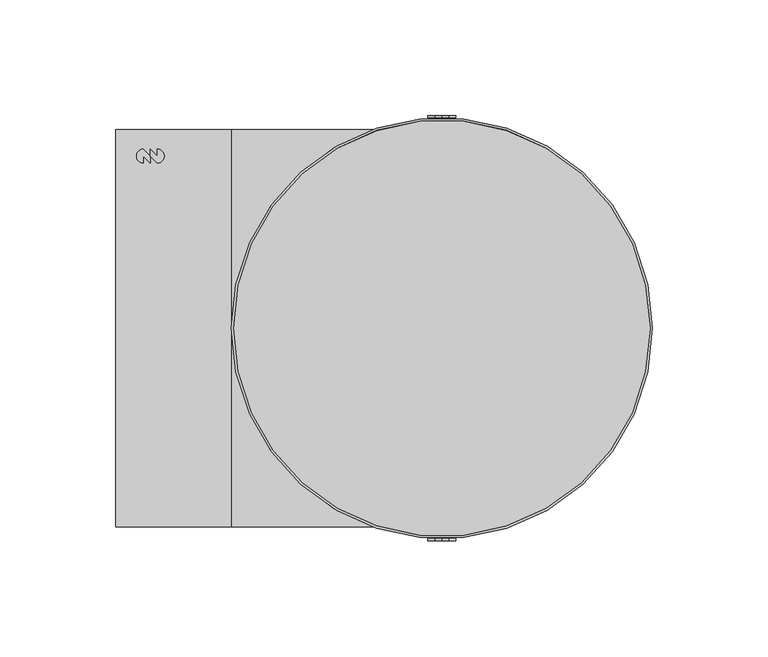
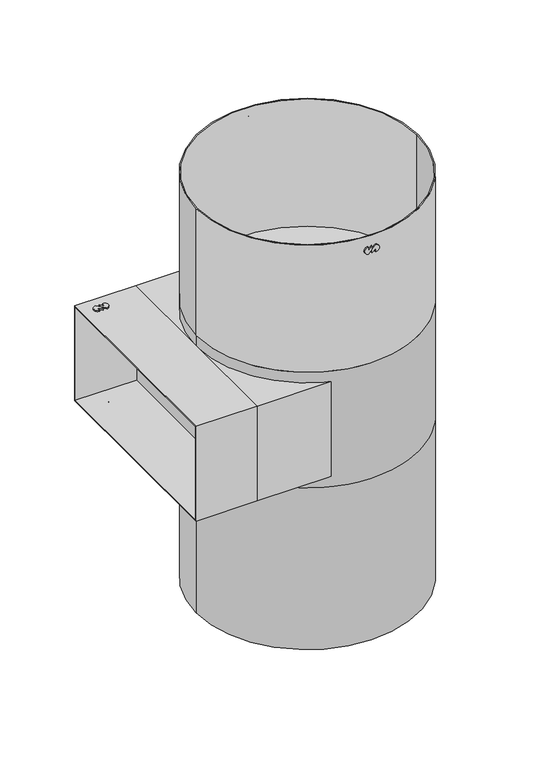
"""IFC4 building model written with IfcOpenShell, lengths in millimetres: duct fitting geometry, NLRS_57_DUF_UN_instortkanaal-instortbus_LT_velu : VIK IB."""

from ifc_helpers import new_model, si_unit, point, frame, frame_2d, origin, place, context, project, spatial, polyline, circle_curve, trimmed, segment, composite_curve, outline, extrude, source, transform, mapped, element, save
from ifc_brep_helpers import plane_surface, cylinder_surface, revolved_surface, advanced_brep


def duct_fitting_78203509(model_context):
    return source(origin(), model_context, "Body", "SolidModel", [
        extrude(outline(composite_curve([segment(trimmed(circle_curve(frame_2d((-123.0, 74.5)), 3.0), [point((-123.0, 77.5))], [point((-123.0, 71.5))], False, "CARTESIAN"), True, "CONTINUOUS"), segment(polyline([(-123.0, 71.5), (-126.0, 74.5), (-126.0, 77.5), (-123.0, 74.5), (-123.0, 77.5)]), True, "CONTINUOUS")], self_intersect=False)), frame((0.0, 0.0, -42.0), z_axis=(0.0, 0.0, 1.0), x_axis=(1.0, 0.0, 0.0)), (0.0, 0.0, 1.0), 1.0),
        extrude(outline(composite_curve([segment(trimmed(circle_curve(frame_2d((-129.0, 74.5)), 3.0), [point((-129.0, 71.5))], [point((-129.0, 77.5))], False, "CARTESIAN"), True, "CONTINUOUS"), segment(polyline([(-129.0, 77.5), (-126.0, 74.5), (-126.0, 71.5), (-129.0, 74.5), (-129.0, 71.5)]), True, "CONTINUOUS")], self_intersect=False)), frame((0.0, 0.0, -42.0), z_axis=(0.0, 0.0, 1.0), x_axis=(1.0, 0.0, 0.0)), (0.0, 0.0, 1.0), 1.0),
        extrude(outline(composite_curve([segment(trimmed(circle_curve(frame_2d((-123.0, 74.5)), 3.0), [point((-123.0, 77.5))], [point((-123.0, 71.5))], False, "CARTESIAN"), True, "CONTINUOUS"), segment(polyline([(-123.0, 71.5), (-126.0, 74.5), (-126.0, 77.5), (-123.0, 74.5), (-123.0, 77.5)]), True, "CONTINUOUS")], self_intersect=False)), frame((0.0, 0.0, 41.0), z_axis=(0.0, 0.0, 1.0), x_axis=(1.0, 0.0, 0.0)), (0.0, 0.0, 1.0), 1.0),
        extrude(outline(composite_curve([segment(trimmed(circle_curve(frame_2d((-129.0, 74.5)), 3.0), [point((-129.0, 71.5))], [point((-129.0, 77.5))], False, "CARTESIAN"), True, "CONTINUOUS"), segment(polyline([(-129.0, 77.5), (-126.0, 74.5), (-126.0, 71.5), (-129.0, 74.5), (-129.0, 71.5)]), True, "CONTINUOUS")], self_intersect=False)), frame((0.0, 0.0, 41.0), z_axis=(0.0, 0.0, 1.0), x_axis=(1.0, 0.0, 0.0)), (0.0, 0.0, 1.0), 1.0),
        extrude(outline(composite_curve([segment(trimmed(circle_curve(frame_2d((148.5, -3.0)), 3.0), [point((151.5, -3.0))], [point((145.5, -3.0))], False, "CARTESIAN"), True, "CONTINUOUS"), segment(polyline([(145.5, -3.0), (148.5, 0.0), (151.5, 0.0), (148.5, -3.0), (151.5, -3.0)]), True, "CONTINUOUS")], self_intersect=False)), frame((0.0, -92.0, 0.0), z_axis=(0.0, 1.0, 0.0), x_axis=(0.0, 0.0, 1.0)), (0.0, 0.0, 1.0), 1.0),
        extrude(outline(composite_curve([segment(trimmed(circle_curve(frame_2d((148.5, 3.0)), 3.0), [point((145.5, 3.0))], [point((151.5, 3.0))], False, "CARTESIAN"), True, "CONTINUOUS"), segment(polyline([(151.5, 3.0), (148.5, 0.0), (145.5, 0.0), (148.5, 3.0), (145.5, 3.0)]), True, "CONTINUOUS")], self_intersect=False)), frame((0.0, -92.0, 0.0), z_axis=(0.0, 1.0, 0.0), x_axis=(0.0, 0.0, 1.0)), (0.0, 0.0, 1.0), 1.0),
        extrude(outline(composite_curve([segment(trimmed(circle_curve(frame_2d((148.5, -3.0)), 3.0), [point((151.5, -3.0))], [point((145.5, -3.0))], False, "CARTESIAN"), True, "CONTINUOUS"), segment(polyline([(145.5, -3.0), (148.5, 0.0), (151.5, 0.0), (148.5, -3.0), (151.5, -3.0)]), True, "CONTINUOUS")], self_intersect=False)), frame((0.0, 91.0, 0.0), z_axis=(0.0, 1.0, 0.0), x_axis=(0.0, 0.0, 1.0)), (0.0, 0.0, 1.0), 1.0),
        extrude(outline(composite_curve([segment(trimmed(circle_curve(frame_2d((148.5, 3.0)), 3.0), [point((145.5, 3.0))], [point((151.5, 3.0))], False, "CARTESIAN"), True, "CONTINUOUS"), segment(polyline([(151.5, 3.0), (148.5, 0.0), (145.5, 0.0), (148.5, 3.0), (145.5, 3.0)]), True, "CONTINUOUS")], self_intersect=False)), frame((0.0, 91.0, 0.0), z_axis=(0.0, 1.0, 0.0), x_axis=(0.0, 0.0, 1.0)), (0.0, 0.0, 1.0), 1.0),
        extrude(outline(polyline([(-86.0, 41.0), (86.0, 41.0), (86.0, -41.0), (-86.0, -41.0), (-86.0, 41.0)]), holes=[polyline([(-85.0, -40.0), (85.0, -40.0), (85.0, 40.0), (-85.0, 40.0), (-85.0, -40.0)])]), frame((-141.0, 0.0, 0.0), z_axis=(1.0, 0.0, 0.0), x_axis=(0.0, 1.0, 0.0)), (0.0, 0.0, 1.0), 50.0),
        advanced_brep(
        [(-90.0, 0.0, 50.0), (90.0, 0.0, 50.0), (-90.0, 0.0, -50.0), (90.0, 0.0, -50.0), (91.0, 0.0, 50.0), (91.0, 0.0, -50.0), (-91.0, 0.0, -50.0), (-91.0, 0.0, -41.0), (-29.7489496, 86.0, -41.0), (-29.7489496, 86.0, 41.0), (-91.0, 0.0, 41.0), (-91.0, 0.0, 50.0), (-29.7489496, -86.0, 41.0), (-29.7489496, -86.0, -41.0), (-91.0, 86.0, 41.0), (-91.0, -86.0, 41.0), (-91.0, -86.0, -41.0), (-91.0, 86.0, -41.0), (91.0, 0.0, 160.0), (-91.0, 0.0, 160.0), (-90.0, 0.0, 160.0), (90.0, 0.0, 160.0), (91.0, 0.0, -190.0), (-91.0, 0.0, -190.0), (-90.0, 0.0, -190.0), (90.0, 0.0, -190.0)],
        [
            (0, 1, circle_curve(frame((0.0, 0.0, 50.0), z_axis=(0.0, 0.0, 1.0), x_axis=(1.0, 0.0, 0.0)), 90.0)),
            (1, 0, circle_curve(frame((0.0, 0.0, 50.0), z_axis=(0.0, 0.0, 1.0), x_axis=(-1.0, 0.0, 0.0)), 90.0)),
            (2, 3, circle_curve(frame((0.0, 0.0, -50.0), z_axis=(0.0, 0.0, -1.0), x_axis=(1.0, 0.0, 0.0)), 90.0)),
            (3, 2, circle_curve(frame((0.0, 0.0, -50.0), z_axis=(0.0, 0.0, -1.0), x_axis=(-1.0, 0.0, 0.0)), 90.0)),
            (4, 5),
            (5, 6, circle_curve(frame((0.0, 0.0, -50.0), z_axis=(0.0, 0.0, 1.0), x_axis=(-1.0, 0.0, 0.0)), 91.0)),
            (6, 7),
            (7, 8, circle_curve(frame((0.0, 0.0, -41.0), z_axis=(0.0, 0.0, -1.0), x_axis=(-1.0, 0.0, 0.0)), 91.0)),
            (8, 9),
            (9, 10, circle_curve(frame((0.0, 0.0, 41.0), z_axis=(0.0, 0.0, 1.0), x_axis=(-1.0, 0.0, 0.0)), 91.0)),
            (10, 11),
            (11, 4, circle_curve(frame((0.0, 0.0, 50.0), z_axis=(0.0, 0.0, -1.0), x_axis=(-1.0, 0.0, 0.0)), 91.0)),
            (4, 11, circle_curve(frame((0.0, 0.0, 50.0), z_axis=(0.0, 0.0, -1.0), x_axis=(-1.0, 0.0, 0.0)), 91.0)),
            (10, 12, circle_curve(frame((0.0, 0.0, 41.0), z_axis=(0.0, 0.0, 1.0), x_axis=(-1.0, 0.0, 0.0)), 91.0)),
            (12, 13),
            (13, 7, circle_curve(frame((0.0, 0.0, -41.0), z_axis=(0.0, 0.0, -1.0), x_axis=(-1.0, 0.0, 0.0)), 91.0)),
            (6, 5, circle_curve(frame((0.0, 0.0, -50.0), z_axis=(0.0, 0.0, 1.0), x_axis=(-1.0, 0.0, 0.0)), 91.0)),
            (14, 10),
            (9, 14),
            (10, 15),
            (15, 12),
            (16, 7),
            (13, 16),
            (7, 17),
            (17, 8),
            (17, 14),
            (16, 15),
            (4, 18),
            (18, 19, circle_curve(frame((0.0, 0.0, 160.0), z_axis=(0.0, 0.0, -1.0), x_axis=(1.0, 0.0, 0.0)), 91.0)),
            (19, 11),
            (20, 21, circle_curve(frame((0.0, 0.0, 160.0), z_axis=(0.0, 0.0, 1.0), x_axis=(1.0, 0.0, 0.0)), 90.0)),
            (21, 1),
            (0, 20),
            (18, 19, circle_curve(frame((0.0, 0.0, 160.0), z_axis=(0.0, 0.0, 1.0), x_axis=(-1.0, 0.0, 0.0)), 91.0)),
            (20, 21, circle_curve(frame((0.0, 0.0, 160.0), z_axis=(0.0, 0.0, -1.0), x_axis=(-1.0, 0.0, 0.0)), 90.0)),
            (5, 22),
            (22, 23, circle_curve(frame((0.0, 0.0, -190.0), z_axis=(0.0, 0.0, 1.0), x_axis=(1.0, 0.0, 0.0)), 91.0)),
            (23, 6),
            (24, 25, circle_curve(frame((0.0, 0.0, -190.0), z_axis=(0.0, 0.0, -1.0), x_axis=(1.0, 0.0, 0.0)), 90.0)),
            (25, 3),
            (2, 24),
            (22, 23, circle_curve(frame((0.0, 0.0, -190.0), z_axis=(0.0, 0.0, -1.0), x_axis=(-1.0, 0.0, 0.0)), 91.0)),
            (24, 25, circle_curve(frame((0.0, 0.0, -190.0), z_axis=(0.0, 0.0, 1.0), x_axis=(-1.0, 0.0, 0.0)), 90.0)),
        ],
        [
            plane_surface(frame((-91.0, 0.0, 50.0), z_axis=(0.0, 0.0, 1.0), x_axis=(0.0, -1.0, 0.0))),
            plane_surface(frame((-91.0, 0.0, -50.0), z_axis=(0.0, 0.0, -1.0), x_axis=(0.0, 1.0, 0.0))),
            cylinder_surface(frame((0.0, 0.0, -50.0), z_axis=(0.0, 0.0, 1.0), x_axis=(-1.0, 0.0, 0.0)), 91.0),
            plane_surface(frame((-91.0, 86.0, 41.0), z_axis=(0.0, 0.0, 1.0), x_axis=(-1.0, 0.0, 0.0))),
            plane_surface(frame((-91.0, 86.0, -41.0), z_axis=(0.0, 0.0, -1.0), x_axis=(1.0, 0.0, 0.0))),
            plane_surface(frame((0.0, 86.0, 41.0), z_axis=(0.0, 1.0, 0.0), x_axis=(0.0, 0.0, -1.0))),
            plane_surface(frame((-91.0, 86.0, 41.0), z_axis=(-1.0, 0.0, 0.0), x_axis=(0.0, 0.0, -1.0))),
            plane_surface(frame((-91.0, -86.0, 41.0), z_axis=(0.0, -1.0, 0.0), x_axis=(0.0, 0.0, -1.0))),
            cylinder_surface(frame((0.0, 0.0, 50.0), z_axis=(0.0, 0.0, -1.0), x_axis=(1.0, 0.0, 0.0)), 91.0),
            revolved_surface(polyline([(90.0, 0.0, 50.0), (90.0, 0.0, 160.0)]), (0.0, 0.0, 50.0), (0.0, 0.0, -1.0)),
            plane_surface(frame((0.0, 0.0, 160.0), z_axis=(0.0, 0.0, 1.0), x_axis=(-1.0, 0.0, 0.0))),
            cylinder_surface(frame((0.0, 0.0, 50.0), z_axis=(0.0, 0.0, -1.0), x_axis=(-1.0, 0.0, 0.0)), 91.0),
            revolved_surface(polyline([(-90.0, 0.0, 50.0), (-90.0, 0.0, 160.0)]), (0.0, 0.0, 50.0), (0.0, 0.0, -1.0)),
            cylinder_surface(frame((0.0, 0.0, -50.0), z_axis=(0.0, 0.0, 1.0), x_axis=(1.0, 0.0, 0.0)), 91.0),
            revolved_surface(polyline([(90.0, 0.0, -50.0), (90.0, 0.0, -190.0)]), (0.0, 0.0, -50.0), (0.0, 0.0, 1.0)),
            plane_surface(frame((0.0, 0.0, -190.0), z_axis=(0.0, 0.0, -1.0), x_axis=(-1.0, 0.0, 0.0))),
            revolved_surface(polyline([(-90.0, 0.0, -50.0), (-90.0, 0.0, -190.0)]), (0.0, 0.0, -50.0), (0.0, 0.0, 1.0)),
        ],
        [
            (0, [[1, 2]]),
            (1, [[3, 4]]),
            (2, [[5, 6, 7, 8, 9, 10, 11, 12]]),
            (2, [[-5, 13, -11, 14, 15, 16, -7, 17]]),
            (3, [[18, -10, 19]]),
            (3, [[20, 21, -14]]),
            (4, [[22, -16, 23]]),
            (4, [[24, 25, -8]]),
            (5, [[26, -19, -9, -25]]),
            (6, [[-26, -24, -22, 27, -20, -18]]),
            (7, [[-27, -23, -15, -21]]),
            (8, [[28, 29, 30, -13]]),
            (9, [[31, 32, -1, 33]]),
            (10, [[-29, 34], [-31, 35]]),
            (11, [[-28, -12, -30, -34]]),
            (12, [[-32, -35, -33, -2]]),
            (13, [[36, 37, 38, -6]]),
            (14, [[39, 40, -3, 41]]),
            (15, [[-37, 42], [-39, 43]]),
            (2, [[-36, -17, -38, -42]]),
            (16, [[-40, -43, -41, -4]]),
        ],
    ),
    ])


if __name__ == "__main__":
    model = new_model("IFC4")
    model_context = context("Model", 3, world=origin())
    ifc_project = project(units=[si_unit("LENGTHUNIT", "METRE", prefix="MILLI")], contexts=[model_context])
    site = spatial("IfcSite", under=ifc_project)
    building = spatial("IfcBuilding", under=site)
    placement = place(None, origin())
    duct_fitting_shape = duct_fitting_78203509(model_context)
    element("IfcDuctFitting", 1, ObjectType="NLRS_57_DUF_UN_instortkanaal-instortbus_LT_velu : VIK IB", at=placement, inside=building, context=model_context, shape_type="MappedRepresentation", body=[
        mapped(duct_fitting_shape, transform((0.0, 0.0, 0.0), x_axis=(1.0, 0.0, 0.0), y_axis=(0.0, 1.0, 0.0), z_axis=(0.0, 0.0, 1.0))),
    ])
    save(model, "model.ifc")
